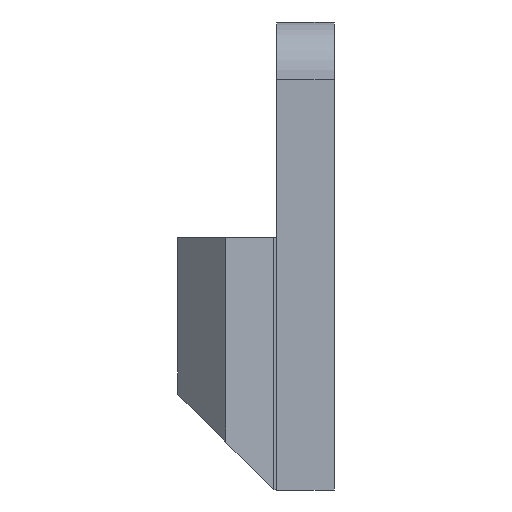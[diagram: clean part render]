
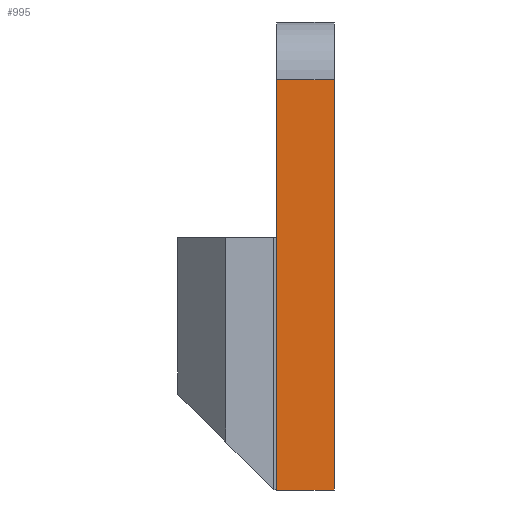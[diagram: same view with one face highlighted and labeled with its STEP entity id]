
A CAD part, front view. The second image highlights one B-rep face of the part: STEP entity #995.
In plain terms, the highlighted planar face has unit normal (0, -1, 0).
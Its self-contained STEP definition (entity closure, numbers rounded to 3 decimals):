
#19=PLANE('',#1069);
#63=FACE_OUTER_BOUND('',#119,.T.);
#119=EDGE_LOOP('',(#696,#697,#698,#699));
#181=LINE('',#1459,#300);
#182=LINE('',#1462,#301);
#183=LINE('',#1464,#302);
#184=LINE('',#1465,#303);
#300=VECTOR('',#1168,10.);
#301=VECTOR('',#1171,10.);
#302=VECTOR('',#1172,10.);
#303=VECTOR('',#1173,10.);
#447=VERTEX_POINT('',#1452);
#450=VERTEX_POINT('',#1457);
#451=VERTEX_POINT('',#1461);
#452=VERTEX_POINT('',#1463);
#547=EDGE_CURVE('',#450,#447,#181,.T.);
#548=EDGE_CURVE('',#451,#450,#182,.T.);
#549=EDGE_CURVE('',#452,#451,#183,.F.);
#550=EDGE_CURVE('',#447,#452,#184,.T.);
#696=ORIENTED_EDGE('',*,*,#547,.F.);
#697=ORIENTED_EDGE('',*,*,#548,.F.);
#698=ORIENTED_EDGE('',*,*,#549,.F.);
#699=ORIENTED_EDGE('',*,*,#550,.F.);
#995=ADVANCED_FACE('',(#63),#19,.F.);
#1069=AXIS2_PLACEMENT_3D('',#1460,#1169,#1170);
#1168=DIRECTION('',(1.,0.,0.));
#1169=DIRECTION('center_axis',(0.,1.,0.));
#1170=DIRECTION('ref_axis',(0.,0.,1.));
#1171=DIRECTION('',(0.,0.,1.));
#1172=DIRECTION('',(1.,0.,0.));
#1173=DIRECTION('',(0.,0.,-1.));
#1452=CARTESIAN_POINT('',(99.15,-20.8,-120.76));
#1457=CARTESIAN_POINT('',(96.15,-20.8,-120.76));
#1459=CARTESIAN_POINT('',(96.15,-20.8,-120.76));
#1460=CARTESIAN_POINT('Origin',(96.15,-20.8,-117.76));
#1461=CARTESIAN_POINT('',(96.15,-20.8,-142.15));
#1462=CARTESIAN_POINT('',(96.15,-20.8,-123.851));
#1463=CARTESIAN_POINT('',(99.15,-20.8,-142.15));
#1464=CARTESIAN_POINT('',(96.15,-20.8,-142.15));
#1465=CARTESIAN_POINT('',(99.15,-20.8,-123.851));
